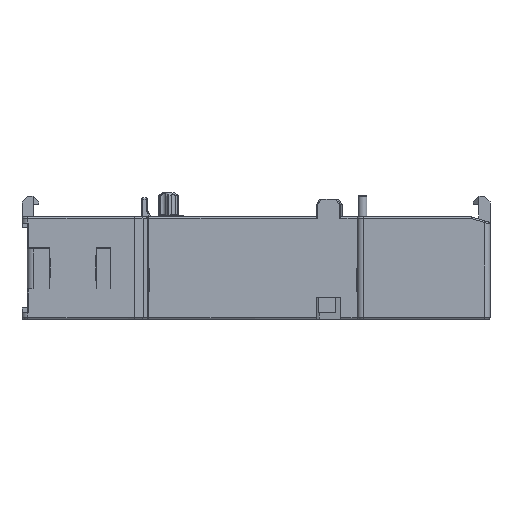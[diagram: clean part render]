
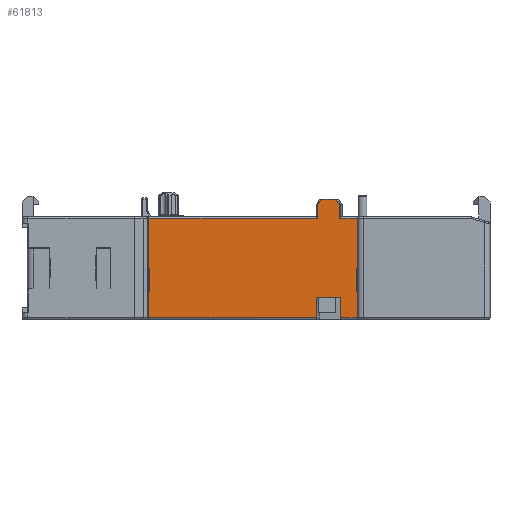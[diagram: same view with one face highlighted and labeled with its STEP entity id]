
A CAD part, front view. The second image highlights one B-rep face of the part: STEP entity #61813.
In plain terms, the highlighted planar face has unit normal (0, -1, 0).
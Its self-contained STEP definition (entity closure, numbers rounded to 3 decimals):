
#547=DIRECTION('',(0.,0.,1.));
#548=VECTOR('',#547,4.55);
#549=CARTESIAN_POINT('',(9.9,-46.,0.3));
#550=LINE('',#549,#548);
#563=DIRECTION('',(-1.,0.,0.));
#564=VECTOR('',#563,0.1);
#565=CARTESIAN_POINT('',(9.9,-46.,8.85));
#566=LINE('',#565,#564);
#1981=DIRECTION('',(0.,0.,-1.));
#1982=VECTOR('',#1981,4.);
#1983=CARTESIAN_POINT('',(-26.,-46.,8.85));
#1984=LINE('',#1983,#1982);
#1985=DIRECTION('',(-1.,0.,0.));
#1986=VECTOR('',#1985,0.1);
#1987=CARTESIAN_POINT('',(-26.,-46.,8.85));
#1988=LINE('',#1987,#1986);
#13901=DIRECTION('',(1.,0.,0.));
#13902=VECTOR('',#13901,0.1);
#13903=CARTESIAN_POINT('',(-26.1,-46.,4.85));
#13904=LINE('',#13903,#13902);
#13905=DIRECTION('',(0.,0.,-1.));
#13906=VECTOR('',#13905,8.55);
#13907=CARTESIAN_POINT('',(-26.1,-46.,17.4));
#13908=LINE('',#13907,#13906);
#13909=DIRECTION('',(1.,0.,0.));
#13910=VECTOR('',#13909,29.092);
#13911=CARTESIAN_POINT('',(-26.1,-46.,17.4));
#13912=LINE('',#13911,#13910);
#13913=DIRECTION('',(-0.506,0.,-0.863));
#13914=VECTOR('',#13913,1.221);
#13915=CARTESIAN_POINT('',(3.61,-46.,20.7));
#13916=LINE('',#13915,#13914);
#13917=DIRECTION('',(-0.506,0.,0.863));
#13918=VECTOR('',#13917,1.221);
#13919=CARTESIAN_POINT('',(6.851,-46.,19.646));
#13920=LINE('',#13919,#13918);
#13921=DIRECTION('',(1.,0.,0.));
#13922=VECTOR('',#13921,3.049);
#13923=CARTESIAN_POINT('',(6.851,-46.,17.4));
#13924=LINE('',#13923,#13922);
#13925=DIRECTION('',(0.,0.,-1.));
#13926=VECTOR('',#13925,8.55);
#13927=CARTESIAN_POINT('',(9.9,-46.,17.4));
#13928=LINE('',#13927,#13926);
#13929=DIRECTION('',(0.,0.,-1.));
#13930=VECTOR('',#13929,4.);
#13931=CARTESIAN_POINT('',(9.8,-46.,8.85));
#13932=LINE('',#13931,#13930);
#13933=DIRECTION('',(1.,0.,0.));
#13934=VECTOR('',#13933,0.1);
#13935=CARTESIAN_POINT('',(9.8,-46.,4.85));
#13936=LINE('',#13935,#13934);
#13937=DIRECTION('',(-1.,0.,0.));
#13938=VECTOR('',#13937,2.932);
#13939=CARTESIAN_POINT('',(9.9,-46.,0.3));
#13940=LINE('',#13939,#13938);
#13941=DIRECTION('',(0.,0.,1.));
#13942=VECTOR('',#13941,3.5);
#13943=CARTESIAN_POINT('',(6.968,-46.,0.3));
#13944=LINE('',#13943,#13942);
#13945=DIRECTION('',(-1.,0.,0.));
#13946=VECTOR('',#13945,4.163);
#13947=CARTESIAN_POINT('',(6.968,-46.,3.8));
#13948=LINE('',#13947,#13946);
#13949=DIRECTION('',(0.,0.,1.));
#13950=VECTOR('',#13949,3.5);
#13951=CARTESIAN_POINT('',(2.805,-46.,0.3));
#13952=LINE('',#13951,#13950);
#13953=DIRECTION('',(-1.,0.,0.));
#13954=VECTOR('',#13953,28.905);
#13955=CARTESIAN_POINT('',(2.805,-46.,0.3));
#13956=LINE('',#13955,#13954);
#13957=DIRECTION('',(0.,0.,1.));
#13958=VECTOR('',#13957,4.55);
#13959=CARTESIAN_POINT('',(-26.1,-46.,0.3));
#13960=LINE('',#13959,#13958);
#13989=DIRECTION('',(0.,0.,-1.));
#13990=VECTOR('',#13989,2.246);
#13991=CARTESIAN_POINT('',(2.992,-46.,19.646));
#13992=LINE('',#13991,#13990);
#14106=DIRECTION('',(0.,0.,1.));
#14107=VECTOR('',#14106,2.246);
#14108=CARTESIAN_POINT('',(6.851,-46.,17.4));
#14109=LINE('',#14108,#14107);
#14138=CARTESIAN_POINT('',(3.61,-46.,20.7));
#14184=CARTESIAN_POINT('',(6.233,-46.,20.7));
#14189=DIRECTION('',(1.,0.,0.));
#14190=VECTOR('',#14189,2.623);
#14191=CARTESIAN_POINT('',(3.61,-46.,20.7));
#14192=LINE('',#14191,#14190);
#14429=CARTESIAN_POINT('',(6.968,-46.,0.3));
#14455=CARTESIAN_POINT('',(2.805,-46.,0.3));
#36043=CARTESIAN_POINT('',(-26.1,-46.,4.85));
#36044=VERTEX_POINT('',#36043);
#36045=CARTESIAN_POINT('',(9.9,-46.,4.85));
#36046=VERTEX_POINT('',#36045);
#36442=CARTESIAN_POINT('',(6.968,-46.,3.8));
#36443=CARTESIAN_POINT('',(2.805,-46.,3.8));
#36444=VERTEX_POINT('',#36442);
#36445=VERTEX_POINT('',#36443);
#37332=CARTESIAN_POINT('',(9.9,-46.,0.3));
#37333=VERTEX_POINT('',#37332);
#37337=VERTEX_POINT('',#14429);
#37366=VERTEX_POINT('',#14455);
#37370=CARTESIAN_POINT('',(-26.1,-46.,0.3));
#37371=VERTEX_POINT('',#37370);
#42020=CARTESIAN_POINT('',(9.8,-46.,8.85));
#42022=VERTEX_POINT('',#42020);
#42023=CARTESIAN_POINT('',(-26.,-46.,8.85));
#42025=VERTEX_POINT('',#42023);
#42725=CARTESIAN_POINT('',(-26.1,-46.,17.4));
#42726=VERTEX_POINT('',#42725);
#42729=CARTESIAN_POINT('',(2.992,-46.,17.4));
#42730=VERTEX_POINT('',#42729);
#42745=CARTESIAN_POINT('',(9.9,-46.,17.4));
#42746=VERTEX_POINT('',#42745);
#43317=VERTEX_POINT('',#14138);
#43318=CARTESIAN_POINT('',(2.992,-46.,19.646));
#43319=VERTEX_POINT('',#43318);
#43338=VERTEX_POINT('',#14184);
#43342=CARTESIAN_POINT('',(6.851,-46.,19.646));
#43343=VERTEX_POINT('',#43342);
#43346=CARTESIAN_POINT('',(6.851,-46.,17.4));
#43347=VERTEX_POINT('',#43346);
#44031=CARTESIAN_POINT('',(9.9,-46.,8.85));
#44033=VERTEX_POINT('',#44031);
#44206=CARTESIAN_POINT('',(-26.1,-46.,8.85));
#44207=VERTEX_POINT('',#44206);
#44212=CARTESIAN_POINT('',(9.8,-46.,4.85));
#44213=VERTEX_POINT('',#44212);
#44214=CARTESIAN_POINT('',(-26.,-46.,4.85));
#44215=VERTEX_POINT('',#44214);
#61772=CARTESIAN_POINT('',(-27.1,-46.,1.15));
#61773=DIRECTION('',(0.,-1.,0.));
#61774=DIRECTION('',(1.,0.,0.));
#61775=AXIS2_PLACEMENT_3D('',#61772,#61773,#61774);
#61776=PLANE('',#61775);
#61777=ORIENTED_EDGE('',*,*,#46431,.T.);
#61778=ORIENTED_EDGE('',*,*,#46453,.F.);
#61779=ORIENTED_EDGE('',*,*,#46465,.T.);
#61780=ORIENTED_EDGE('',*,*,#46481,.F.);
#61782=ORIENTED_EDGE('',*,*,#61781,.T.);
#61784=ORIENTED_EDGE('',*,*,#61783,.F.);
#61786=ORIENTED_EDGE('',*,*,#61785,.F.);
#61788=ORIENTED_EDGE('',*,*,#61787,.T.);
#61790=ORIENTED_EDGE('',*,*,#61789,.F.);
#61792=ORIENTED_EDGE('',*,*,#61791,.F.);
#61793=ORIENTED_EDGE('',*,*,#61763,.T.);
#61794=ORIENTED_EDGE('',*,*,#44967,.T.);
#61795=ORIENTED_EDGE('',*,*,#44995,.T.);
#61797=ORIENTED_EDGE('',*,*,#61796,.T.);
#61798=ORIENTED_EDGE('',*,*,#46437,.T.);
#61799=ORIENTED_EDGE('',*,*,#44974,.F.);
#61801=ORIENTED_EDGE('',*,*,#61800,.T.);
#61803=ORIENTED_EDGE('',*,*,#61802,.T.);
#61805=ORIENTED_EDGE('',*,*,#61804,.T.);
#61807=ORIENTED_EDGE('',*,*,#61806,.F.);
#61809=ORIENTED_EDGE('',*,*,#61808,.T.);
#61810=ORIENTED_EDGE('',*,*,#46487,.T.);
#61811=EDGE_LOOP('',(#61777,#61778,#61779,#61780,#61782,#61784,#61786,#61788,
#61790,#61792,#61793,#61794,#61795,#61797,#61798,#61799,#61801,#61803,#61805,
#61807,#61809,#61810));
#61812=FACE_OUTER_BOUND('',#61811,.F.);
#61813=ADVANCED_FACE('',(#61812),#61776,.T.);
#44967=EDGE_CURVE('',#42746,#44033,#13928,.T.);
#44974=EDGE_CURVE('',#37333,#36046,#550,.T.);
#44995=EDGE_CURVE('',#44033,#42022,#566,.T.);
#46431=EDGE_CURVE('',#36044,#44215,#13904,.T.);
#46437=EDGE_CURVE('',#44213,#36046,#13936,.T.);
#46453=EDGE_CURVE('',#42025,#44215,#1984,.T.);
#46465=EDGE_CURVE('',#42025,#44207,#1988,.T.);
#46481=EDGE_CURVE('',#42726,#44207,#13908,.T.);
#46487=EDGE_CURVE('',#37371,#36044,#13960,.T.);
#61763=EDGE_CURVE('',#43347,#42746,#13924,.T.);
#61781=EDGE_CURVE('',#42726,#42730,#13912,.T.);
#61783=EDGE_CURVE('',#43319,#42730,#13992,.T.);
#61785=EDGE_CURVE('',#43317,#43319,#13916,.T.);
#61787=EDGE_CURVE('',#43317,#43338,#14192,.T.);
#61789=EDGE_CURVE('',#43343,#43338,#13920,.T.);
#61791=EDGE_CURVE('',#43347,#43343,#14109,.T.);
#61796=EDGE_CURVE('',#42022,#44213,#13932,.T.);
#61800=EDGE_CURVE('',#37333,#37337,#13940,.T.);
#61802=EDGE_CURVE('',#37337,#36444,#13944,.T.);
#61804=EDGE_CURVE('',#36444,#36445,#13948,.T.);
#61806=EDGE_CURVE('',#37366,#36445,#13952,.T.);
#61808=EDGE_CURVE('',#37366,#37371,#13956,.T.);
